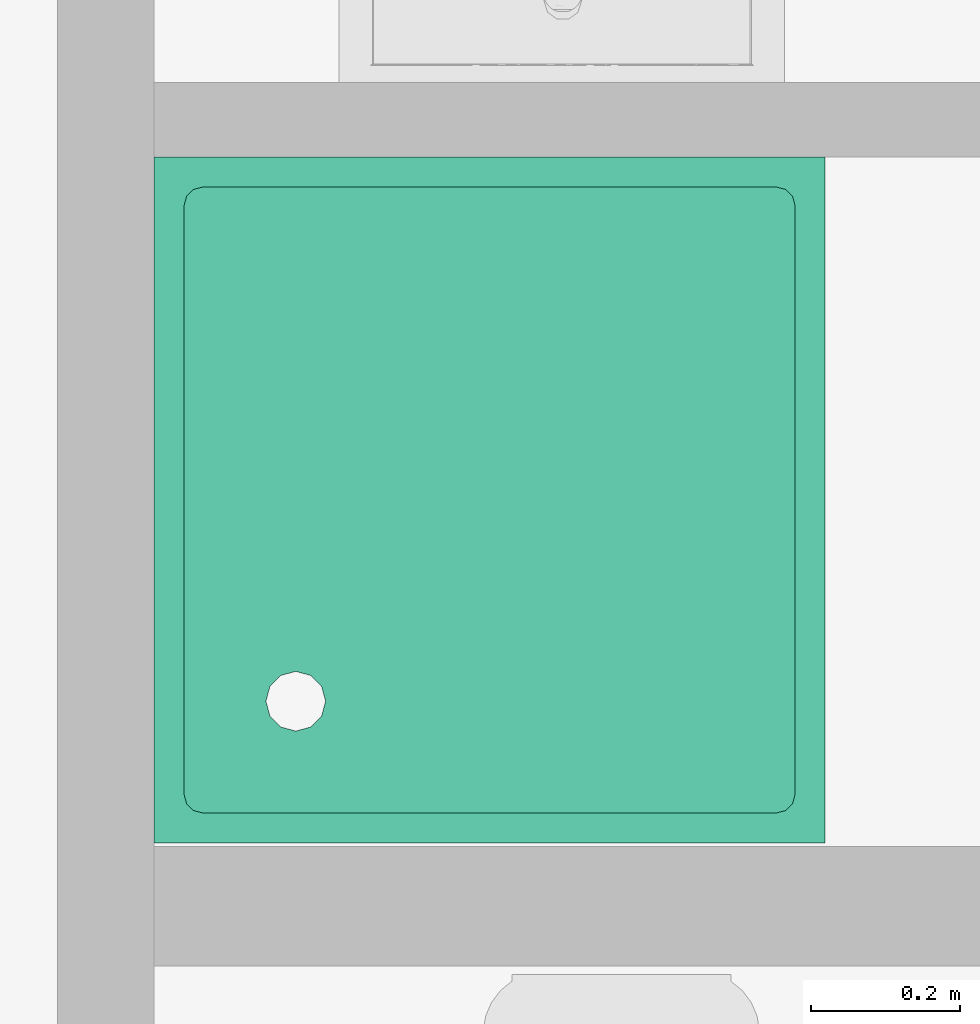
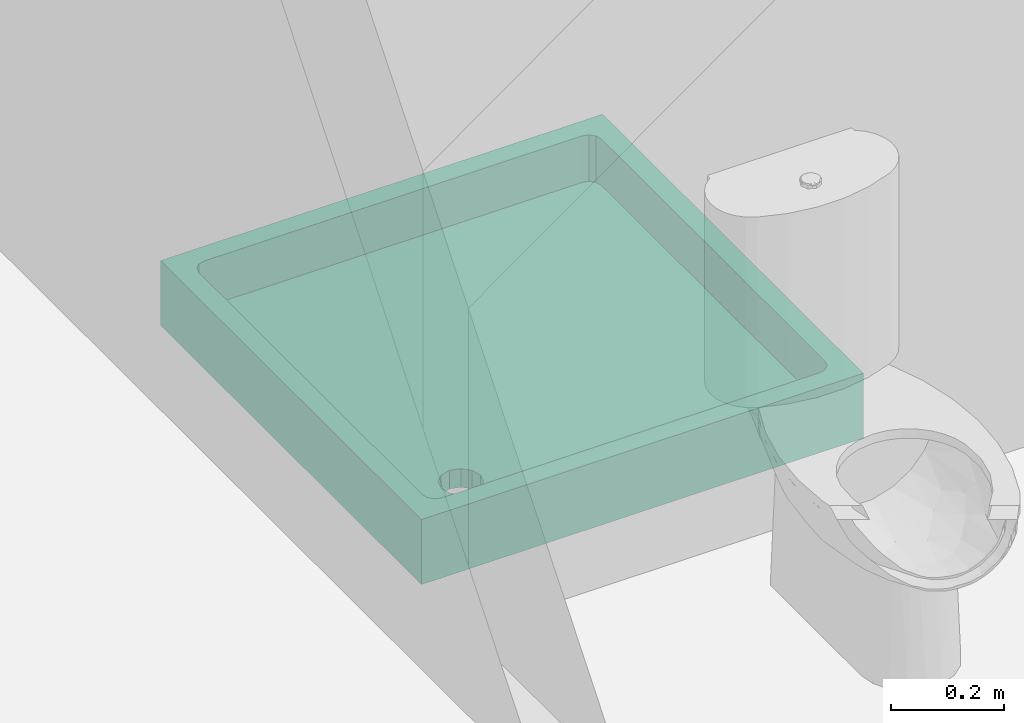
# One storey, part 96 of 97: 1 flow terminal.
"""IFC4 building model written with IfcOpenShell, lengths in metres."""

import ifcopenshell
import ifcopenshell.guid

model = None  # the IFC model being written
_history = None  # IfcOwnerHistory: only IFC2X3 demands one
_inside = {}  # id of a spatial element -> (the spatial element, [elements in it])
_under = {}  # id of a project, library or spatial element -> (it, [spatial elements below it])
_declared = {}  # id of a project -> (the project, [libraries it declares])
_typed = {}  # id of a type object -> (the type object, [elements of that type])
_made_of = {}  # id of a material, layer set ... -> (it, [elements and type objects made of it])


def new_model(schema):
    """Start an empty IFC model of exactly this schema.

    Asked for "IFC4X3", IfcOpenShell would pick the latest addendum, in which some entities
    have other attributes; the version numbers below select the first issue.
    IFC2X3 requires an IfcOwnerHistory on every rooted entity: one is made here for all.
    """
    global model, _history
    if schema == "IFC4X3":
        model = ifcopenshell.file(schema_version=(4, 3, 0, 0))
    else:
        model = ifcopenshell.file(schema=schema)
    _inside.clear()
    _under.clear()
    _declared.clear()
    _typed.clear()
    _made_of.clear()
    _history = None
    if model.schema == "IFC2X3":
        org = make("IfcOrganization", Name="unknown")
        user = make(
            "IfcPersonAndOrganization",
            ThePerson=make("IfcPerson", FamilyName="unknown"),
            TheOrganization=org,
        )
        app = make(
            "IfcApplication",
            ApplicationDeveloper=org,
            Version="unknown",
            ApplicationFullName="unknown",
            ApplicationIdentifier="unknown",
        )
        _history = make(
            "IfcOwnerHistory",
            OwningUser=user,
            OwningApplication=app,
            ChangeAction="ADDED",
            CreationDate=0,
        )
    return model


def make(cls, **values):
    """One entity of the class cls with the attributes given. An attribute that is None is left unset."""
    return model.create_entity(
        cls, **{name: value for name, value in values.items() if value is not None}
    )


def entity(cls, *values):
    """Any entity or typed value of the class cls, its attributes in the order of the schema. None: left unset."""
    e = model.create_entity(cls)
    for i, value in enumerate(values):
        if value is not None:
            e[i] = value
    return e


def rooted(cls, **values):
    """An entity with a GlobalId (a new one), such as an element, a storey or a relation."""
    return make(cls, GlobalId=ifcopenshell.guid.new(), OwnerHistory=_history, **values)


def si_unit(unit_type, name, prefix=None):
    """IfcSIUnit, for example si_unit("LENGTHUNIT", "METRE", prefix="MILLI")."""
    return make("IfcSIUnit", UnitType=unit_type, Prefix=prefix, Name=name)


def converted_unit(unit_type, name, factor, base, dimensions=None, offset=None):
    """IfcConversionBasedUnit, such as the inch: factor (a typed value) times the base unit."""
    return make(
        "IfcConversionBasedUnit"
        if offset is None
        else "IfcConversionBasedUnitWithOffset",
        ConversionOffset=offset,
        Dimensions=None
        if dimensions is None
        else entity("IfcDimensionalExponents", *dimensions),
        UnitType=unit_type,
        Name=name,
        ConversionFactor=make(
            "IfcMeasureWithUnit", ValueComponent=factor, UnitComponent=base
        ),
    )


def derived_unit(unit_type, elements):
    """IfcDerivedUnit: a product of units, each with its exponent."""
    return make(
        "IfcDerivedUnit",
        Elements=[
            make("IfcDerivedUnitElement", Unit=unit, Exponent=power)
            for unit, power in elements
        ],
        UnitType=unit_type,
    )


def assignment(units):
    """IfcUnitAssignment: the units of a project."""
    return None if units is None else make("IfcUnitAssignment", Units=units)


def point(xyz):
    """IfcCartesianPoint."""
    return None if xyz is None else make("IfcCartesianPoint", Coordinates=xyz)


def direction(xyz):
    """IfcDirection."""
    return None if xyz is None else make("IfcDirection", DirectionRatios=xyz)


def frame(location, z_axis=None, x_axis=None):
    """IfcAxis2Placement3D, a coordinate frame: its origin and axes. An axis left out is left unset."""
    return make(
        "IfcAxis2Placement3D",
        Location=point(location),
        Axis=direction(z_axis),
        RefDirection=direction(x_axis),
    )


def origin():
    """The frame at (0, 0, 0) with its axes left unset."""
    return frame((0.0, 0.0, 0.0))


def place(relative_to, where):
    """IfcLocalPlacement: puts the frame where relative to a parent placement (None: the world)."""
    return make(
        "IfcLocalPlacement", PlacementRelTo=relative_to, RelativePlacement=where
    )


def context(
    kind, dimensions, precision=None, world=None, true_north=None, identifier=None
):
    """IfcGeometricRepresentationContext, for example the 3D "Model" context."""
    return make(
        "IfcGeometricRepresentationContext",
        ContextIdentifier=identifier,
        ContextType=kind,
        CoordinateSpaceDimension=dimensions,
        Precision=precision,
        WorldCoordinateSystem=world,
        TrueNorth=true_north,
    )


def subcontext(parent, identifier, kind, view, scale=None):
    """IfcGeometricRepresentationSubContext, for example "Body" below "Model"."""
    return make(
        "IfcGeometricRepresentationSubContext",
        ContextIdentifier=identifier,
        ContextType=kind,
        ParentContext=parent,
        TargetScale=scale,
        TargetView=view,
    )


def project(units=None, contexts=None):
    """IfcProject with its units and contexts."""
    return rooted(
        "IfcProject",
        Name="project",
        RepresentationContexts=contexts,
        UnitsInContext=assignment(units),
    )


def spatial(cls, under=None, at=None, **own):
    """A site, building, storey or space (cls), placed at a placement, below another one or the project."""
    s = rooted(cls, ObjectPlacement=at, **own)
    if under is not None:
        _under.setdefault(under.id(), (under, []))[1].append(s)
    return s


def point_list(points):
    """IfcCartesianPointList2D or 3D."""
    cls = (
        "IfcCartesianPointList2D" if len(points[0]) == 2 else "IfcCartesianPointList3D"
    )
    return make(cls, CoordList=points)


def polygons(points, faces, closed=None, point_numbers=None):
    """IfcPolygonalFaceSet: a face is its outer loop, then its inner loops; points numbered from 1."""
    made = []
    for loops in faces:
        if len(loops) == 1:
            made.append(make("IfcIndexedPolygonalFace", CoordIndex=loops[0]))
        else:
            made.append(
                make(
                    "IfcIndexedPolygonalFaceWithVoids",
                    CoordIndex=loops[0],
                    InnerCoordIndices=loops[1:],
                )
            )
    return make(
        "IfcPolygonalFaceSet",
        Coordinates=point_list(points),
        Closed=closed,
        Faces=made,
        PnIndex=point_numbers,
    )


def shape(context_of_items, identifier, shape_type, items):
    """IfcShapeRepresentation: the items that make up one representation, for example the "Body"."""
    return make(
        "IfcShapeRepresentation",
        ContextOfItems=context_of_items,
        RepresentationIdentifier=identifier,
        RepresentationType=shape_type,
        Items=items,
    )


def source(mapping_origin, context_of_items, identifier, shape_type, items):
    """IfcRepresentationMap: a shape defined once, which mapped items show again and again."""
    return make(
        "IfcRepresentationMap",
        MappingOrigin=mapping_origin,
        MappedRepresentation=shape(context_of_items, identifier, shape_type, items),
    )


def transform(
    local_origin,
    x_axis=None,
    y_axis=None,
    z_axis=None,
    scale=None,
    scale2=None,
    scale3=None,
    uniform=True,
):
    """IfcCartesianTransformationOperator3D, or its non-uniform kind. x_axis, y_axis, z_axis: its Axis1, 2, 3."""
    if uniform:
        return make(
            "IfcCartesianTransformationOperator3D",
            Axis1=direction(x_axis),
            Axis2=direction(y_axis),
            LocalOrigin=point(local_origin),
            Scale=scale,
            Axis3=direction(z_axis),
        )
    return make(
        "IfcCartesianTransformationOperator3DnonUniform",
        Axis1=direction(x_axis),
        Axis2=direction(y_axis),
        LocalOrigin=point(local_origin),
        Scale=scale,
        Axis3=direction(z_axis),
        Scale2=scale2,
        Scale3=scale3,
    )


def mapped(mapping_source, mapping_target):
    """IfcMappedItem: shows the shape of a source again, moved by a transform."""
    return make(
        "IfcMappedItem", MappingSource=mapping_source, MappingTarget=mapping_target
    )


def material(Name=None, Category=None):
    """IfcMaterial."""
    return make("IfcMaterial", Name=Name, Category=Category)


def made_of(thing, what):
    """Note that an element or type object is made of a material, layer set ...; save() writes the relation."""
    if what is not None:
        _made_of.setdefault(what.id(), (what, []))[1].append(thing)
    return thing


def type_object(cls, material=None, **own):
    """A type object (cls), such as IfcWallType, which elements share."""
    return made_of(rooted(cls, **own), material)


def type_shapes(of_type, sources):
    """Give a type object the sources (RepresentationMaps) that its elements show as mapped items."""
    of_type.RepresentationMaps = sources


def element(
    cls,
    number,
    at=None,
    inside=None,
    cuts=None,
    type_object=None,
    material=None,
    context=None,
    identifier="Body",
    shape_type=None,
    held_by="IfcProductDefinitionShape",
    body=None,
    shapes=None,
    **own,
):
    """One element of the class cls, such as IfcWall. Its Tag is "e" and its number.

    at: its placement. inside: the storey or other place that contains it. cuts: it is an
    opening in that element (IfcRelVoidsElement). A single representation is given by context,
    identifier, shape_type and body (its items); several are given by shapes. held_by: the class
    of the entity that holds the representations. save() writes the other relations.
    """
    e = rooted(cls, Tag="e%d" % number, ObjectPlacement=at, **own)
    if body is not None:
        shapes = [shape(context, identifier, shape_type, body)]
    if shapes is not None:
        e.Representation = make(held_by, Representations=shapes)
    if inside is not None:
        _inside.setdefault(inside.id(), (inside, []))[1].append(e)
    if cuts is not None:
        rooted(
            "IfcRelVoidsElement", RelatingBuildingElement=cuts, RelatedOpeningElement=e
        )
    if type_object is not None:
        _typed.setdefault(type_object.id(), (type_object, []))[1].append(e)
    return made_of(e, material)


def aggregate(whole, parts):
    """IfcRelAggregates: a whole, such as a stair, and the parts it consists of."""
    return rooted("IfcRelAggregates", RelatingObject=whole, RelatedObjects=parts)


def save(model, path):
    """Write the relations noted so far, then the file.

    IfcRelAggregates (storeys below a building ...), IfcRelContainedInSpatialStructure (elements
    in a storey), IfcRelDefinesByType, IfcRelAssociatesMaterial and IfcRelDeclares: one each for
    every whole, place, type object, material and project.
    """
    for whole, parts in _under.values():
        aggregate(whole, parts)
    for where, things in _inside.values():
        rooted(
            "IfcRelContainedInSpatialStructure",
            RelatedElements=things,
            RelatingStructure=where,
        )
    for kind, things in _typed.values():
        rooted("IfcRelDefinesByType", RelatedObjects=things, RelatingType=kind)
    for what, things in _made_of.values():
        rooted("IfcRelAssociatesMaterial", RelatedObjects=things, RelatingMaterial=what)
    for by, libraries in _declared.values():
        rooted("IfcRelDeclares", RelatingContext=by, RelatedDefinitions=libraries)
    model.write(path)


model = new_model("IFC4")

# Units and contexts
model_context = context("Model", 3, precision=1e-05, world=origin(), true_north=direction((6.12303176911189e-17, 1.0)))
body_context = subcontext(model_context, "Body", "Model", "MODEL_VIEW")
ifc_project = project(units=[si_unit("LENGTHUNIT", "METRE"), si_unit("AREAUNIT", "SQUARE_METRE"), si_unit("VOLUMEUNIT", "CUBIC_METRE"), converted_unit("PLANEANGLEUNIT", "DEGREE", entity("IfcRatioMeasure", 0.0174532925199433), si_unit("PLANEANGLEUNIT", "RADIAN"), dimensions=[0, 0, 0, 0, 0, 0, 0]), si_unit("MASSUNIT", "GRAM", prefix="KILO"), derived_unit("MASSDENSITYUNIT", [(si_unit("MASSUNIT", "GRAM", prefix="KILO"), 1), (si_unit("LENGTHUNIT", "METRE"), -3)]), derived_unit("MOMENTOFINERTIAUNIT", [(si_unit("LENGTHUNIT", "METRE"), 4)]), si_unit("TIMEUNIT", "SECOND"), si_unit("FREQUENCYUNIT", "HERTZ"), si_unit("THERMODYNAMICTEMPERATUREUNIT", "DEGREE_CELSIUS"), derived_unit("THERMALTRANSMITTANCEUNIT", [(si_unit("MASSUNIT", "GRAM", prefix="KILO"), 1), (si_unit("THERMODYNAMICTEMPERATUREUNIT", "KELVIN"), -1), (si_unit("TIMEUNIT", "SECOND"), -3)]), derived_unit("VOLUMETRICFLOWRATEUNIT", [(si_unit("LENGTHUNIT", "METRE"), 3), (si_unit("TIMEUNIT", "SECOND"), -1)]), si_unit("ELECTRICCURRENTUNIT", "AMPERE"), si_unit("ELECTRICVOLTAGEUNIT", "VOLT"), si_unit("POWERUNIT", "WATT"), si_unit("FORCEUNIT", "NEWTON", prefix="KILO"), si_unit("ILLUMINANCEUNIT", "LUX"), si_unit("LUMINOUSFLUXUNIT", "LUMEN"), si_unit("LUMINOUSINTENSITYUNIT", "CANDELA"), derived_unit("USERDEFINED", [(si_unit("MASSUNIT", "GRAM", prefix="KILO"), -1), (si_unit("LENGTHUNIT", "METRE"), -2), (si_unit("TIMEUNIT", "SECOND"), 3), (si_unit("LUMINOUSFLUXUNIT", "LUMEN"), 1)]), derived_unit("LINEARVELOCITYUNIT", [(si_unit("LENGTHUNIT", "METRE"), 1), (si_unit("TIMEUNIT", "SECOND"), -1)]), si_unit("PRESSUREUNIT", "PASCAL"), derived_unit("USERDEFINED", [(si_unit("LENGTHUNIT", "METRE"), -2), (si_unit("MASSUNIT", "GRAM", prefix="KILO"), 1), (si_unit("TIMEUNIT", "SECOND"), -2)]), derived_unit("LINEARFORCEUNIT", [(si_unit("MASSUNIT", "GRAM", prefix="KILO"), 1), (si_unit("LENGTHUNIT", "METRE"), 1), (si_unit("TIMEUNIT", "SECOND"), -2), (si_unit("LENGTHUNIT", "METRE"), -1)]), derived_unit("PLANARFORCEUNIT", [(si_unit("MASSUNIT", "GRAM", prefix="KILO"), 1), (si_unit("LENGTHUNIT", "METRE"), 1), (si_unit("TIMEUNIT", "SECOND"), -2), (si_unit("LENGTHUNIT", "METRE"), -2)])], contexts=[model_context])

# Site, building, storey
site_placement = place(None, origin())
site = spatial("IfcSite", under=ifc_project, at=site_placement, Name="Default", CompositionType="ELEMENT")
building_placement = place(site_placement, origin())
building = spatial("IfcBuilding", under=site, at=building_placement, Name="HOTEL CONSULAIRE BOULOGNE SUR MER", CompositionType="ELEMENT")
storey_placement = place(building_placement, frame((0.0, 0.0, 3.62152697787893)))
storey = spatial("IfcBuildingStorey", under=building, at=storey_placement, Name="Niveau 1", CompositionType="ELEMENT", Elevation=3.62152697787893)

# Flow terminal
ifc_material = material(Name="Céramique - Blanche", Category="Céramique")
distribution_element_type = type_object("IfcDistributionElementType", Name="Receveur d'angle - Vidange en angle:920 x 900mm", material=ifc_material)
shared_shape = source(origin(), body_context, "Body", "Tessellation", [
    polygons([(0.46, 0.450000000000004, 0.140000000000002), (-0.46, 0.450000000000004, 0.140000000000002), (-0.46, -0.449999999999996, 0.140000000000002), (0.46, -0.449999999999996, 0.140000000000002), (0.420000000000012, -0.384599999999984, 0.140000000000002), (0.41659704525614, -0.397299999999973, 0.140000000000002), (0.407300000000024, -0.406597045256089, 0.140000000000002), (0.394600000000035, -0.409999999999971, 0.140000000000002), (-0.39459999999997, -0.409999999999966, 0.140000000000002), (-0.407299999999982, -0.406597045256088, 0.140000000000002), (-0.416597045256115, -0.397299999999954, 0.140000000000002), (-0.419999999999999, -0.384599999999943, 0.140000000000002), (-0.420000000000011, 0.384600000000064, 0.140000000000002), (-0.416597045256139, 0.397300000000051, 0.140000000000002), (-0.407300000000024, 0.406597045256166, 0.140000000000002), (-0.394600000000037, 0.410000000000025, 0.140000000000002), (0.394600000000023, 0.410000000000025, 0.140000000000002), (0.407300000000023, 0.40659704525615, 0.140000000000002), (0.416597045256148, 0.397300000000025, 0.140000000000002), (0.420000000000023, 0.384600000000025, 0.140000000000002), (0.46, 0.450000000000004, 0.0), (0.46, -0.449999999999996, 0.0), (-0.46, -0.449999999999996, 0.0), (-0.46, 0.450000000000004, 0.0), (0.230000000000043, -0.259999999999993, 0.0), (0.235358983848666, -0.279999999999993, 0.0), (0.250000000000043, -0.29464101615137, 0.0), (0.270000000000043, -0.299999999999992, 0.0), (0.290000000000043, -0.29464101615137, 0.0), (0.304641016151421, -0.279999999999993, 0.0), (0.310000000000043, -0.259999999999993, 0.0), (0.304641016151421, -0.239999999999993, 0.0), (0.290000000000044, -0.225358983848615, 0.0), (0.270000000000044, -0.219999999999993, 0.0), (0.250000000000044, -0.225358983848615, 0.0), (0.235358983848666, -0.239999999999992, 0.0), (0.394600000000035, -0.409999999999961, 0.0400000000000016), (0.407300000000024, -0.406597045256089, 0.0400000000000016), (0.41659704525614, -0.397299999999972, 0.0400000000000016), (0.420000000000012, -0.384599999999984, 0.0400000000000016), (0.420000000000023, 0.384600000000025, 0.0400000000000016), (0.416597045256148, 0.397300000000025, 0.0400000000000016), (0.407300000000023, 0.40659704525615, 0.0400000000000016), (0.394600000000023, 0.410000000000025, 0.0400000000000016), (-0.394600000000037, 0.410000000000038, 0.0400000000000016), (-0.407300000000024, 0.406597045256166, 0.0400000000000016), (-0.416597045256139, 0.397300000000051, 0.0400000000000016), (-0.420000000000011, 0.384600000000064, 0.0400000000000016), (-0.419999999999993, -0.384599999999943, 0.0400000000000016), (-0.416597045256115, -0.397299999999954, 0.0400000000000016), (-0.407299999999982, -0.406597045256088, 0.0400000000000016), (-0.39459999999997, -0.409999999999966, 0.0400000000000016), (0.310000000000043, -0.259999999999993, 0.0400000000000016), (0.304641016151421, -0.279999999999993, 0.0400000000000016), (0.290000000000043, -0.29464101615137, 0.0400000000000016), (0.270000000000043, -0.299999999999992, 0.0400000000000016), (0.250000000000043, -0.29464101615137, 0.0400000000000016), (0.235358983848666, -0.279999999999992, 0.0400000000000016), (0.230000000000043, -0.259999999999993, 0.0400000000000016), (0.235358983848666, -0.239999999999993, 0.0400000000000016), (0.250000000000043, -0.225358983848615, 0.0400000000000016), (0.270000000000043, -0.219999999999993, 0.0400000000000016), (0.290000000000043, -0.225358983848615, 0.0400000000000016), (0.304641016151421, -0.239999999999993, 0.0400000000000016), (0.402049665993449, -0.408003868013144, 0.0400000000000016), (0.400950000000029, -0.408298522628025, 0.140000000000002), (0.411948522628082, -0.401948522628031, 0.140000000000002), (0.411948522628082, -0.401948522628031, 0.0400000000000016), (0.418003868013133, -0.392049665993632, 0.140000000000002), (0.418298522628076, -0.390949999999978, 0.0400000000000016), (0.418003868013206, 0.39204966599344, 0.0400000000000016), (0.418298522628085, 0.390950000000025, 0.140000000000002), (0.411948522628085, 0.401948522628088, 0.140000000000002), (0.411948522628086, 0.401948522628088, 0.0400000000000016), (0.402049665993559, 0.408003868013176, 0.140000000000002), (0.400950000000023, 0.408298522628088, 0.0400000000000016), (-0.402049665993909, 0.408003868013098, 0.0400000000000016), (-0.40095000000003, 0.408298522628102, 0.140000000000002), (-0.411948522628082, 0.401948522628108, 0.140000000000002), (-0.411948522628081, 0.401948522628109, 0.0400000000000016), (-0.418003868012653, 0.392049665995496, 0.140000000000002), (-0.418298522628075, 0.390950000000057, 0.0400000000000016), (-0.41800386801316, -0.392049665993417, 0.0400000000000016), (-0.418298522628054, -0.390949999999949, 0.140000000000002), (-0.411948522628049, -0.401948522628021, 0.140000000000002), (-0.411948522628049, -0.401948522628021, 0.0400000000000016), (-0.402049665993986, -0.408003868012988, 0.140000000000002), (-0.400949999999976, -0.408298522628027, 0.0400000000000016), (0.232465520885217, -0.269201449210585, 0.0400000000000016), (0.232679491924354, -0.269999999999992, 1.37002686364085e-25), (0.242679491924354, -0.287320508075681, 8.22016118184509e-25), (0.242679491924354, -0.287320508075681, 0.0400000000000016), (0.260000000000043, -0.297320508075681, 3.28806447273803e-24), (0.260000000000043, -0.297320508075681, 0.0400000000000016), (0.297320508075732, -0.287320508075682, 0.0400000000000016), (0.297320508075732, -0.287320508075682, 1.37002686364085e-25), (0.307534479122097, -0.269201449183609, 0.0400000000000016), (0.307320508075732, -0.269999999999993, 2.28337810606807e-26), (0.280000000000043, -0.297320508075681, 2.64871860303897e-24), (0.280000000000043, -0.297320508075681, 0.0400000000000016), (0.307534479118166, -0.250798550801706, 0.0400000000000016), (0.307320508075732, -0.249999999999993, 4.56675621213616e-26), (0.297320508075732, -0.232679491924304, 4.56675621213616e-26), (0.297320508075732, -0.232679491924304, 0.0400000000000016), (0.280000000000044, -0.222679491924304, -7.30680993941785e-25), (0.280000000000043, -0.222679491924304, 0.0400000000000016), (0.242679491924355, -0.232679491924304, 0.0400000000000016), (0.242679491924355, -0.232679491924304, 1.82670248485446e-25), (0.232465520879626, -0.250798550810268, 0.0400000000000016), (0.232679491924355, -0.249999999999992, 0.0), (0.260000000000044, -0.222679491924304, -5.48010745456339e-25), (0.260000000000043, -0.222679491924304, 0.0400000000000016)], [[[1, 2, 3, 4], [5, 69, 6, 67, 7, 66, 8, 9, 87, 10, 85, 11, 84, 12, 13, 81, 14, 79, 15, 78, 16, 17, 75, 18, 73, 19, 72, 20]], [[41, 71, 42, 74, 43, 76, 44, 45, 77, 46, 80, 47, 82, 48, 49, 83, 50, 86, 51, 88, 52, 37, 65, 38, 68, 39, 70, 40], [61, 112, 62, 106, 63, 104, 64, 101, 53, 97, 54, 95, 55, 100, 56, 94, 57, 92, 58, 89, 59, 109, 60, 107]], [[24, 21, 22, 23], [36, 110, 25, 90, 26, 91, 27, 93, 28, 99, 29, 96, 30, 98, 31, 102, 32, 103, 33, 105, 34, 111, 35, 108]], [[2, 1, 21, 24]], [[52, 9, 8, 37]], [[3, 2, 24, 23]], [[40, 5, 20, 41]], [[4, 3, 23, 22]], [[44, 17, 16, 45]], [[1, 4, 22, 21]], [[48, 13, 12, 49]], [[38, 65, 37, 8, 66, 7]], [[99, 28, 56, 100, 55, 29]], [[39, 68, 38, 7, 67, 6]], [[95, 54, 30, 96, 29, 55]], [[5, 40, 70, 39, 6, 69]], [[97, 53, 31, 98, 30, 54]], [[42, 71, 41, 20, 72, 19]], [[32, 102, 31, 53, 101, 64]], [[43, 74, 42, 19, 73, 18]], [[63, 33, 103, 32, 64, 104]], [[17, 44, 76, 43, 18, 75]], [[105, 33, 63, 106, 62, 34]], [[46, 77, 45, 16, 78, 15]], [[111, 34, 62, 112, 61, 35]], [[47, 80, 46, 15, 79, 14]], [[107, 60, 36, 108, 35, 61]], [[13, 48, 82, 47, 14, 81]], [[109, 59, 25, 110, 36, 60]], [[50, 83, 49, 12, 84, 11]], [[26, 90, 25, 59, 89, 58]], [[51, 86, 50, 11, 85, 10]], [[57, 27, 91, 26, 58, 92]], [[9, 52, 88, 51, 10, 87]], [[94, 56, 28, 93, 27, 57]]], closed=True),
])
type_shapes(distribution_element_type, [shared_shape])
flow_terminal_placement = place(storey_placement, frame((-2.08052868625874, -17.7777856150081, 0.0), z_axis=(0.0, 0.0, 1.0), x_axis=(0.0, -1.0, 0.0)))
element("IfcFlowTerminal", 1, at=flow_terminal_placement, inside=storey, type_object=distribution_element_type, material=ifc_material, Name="Receveur d'angle - Vidange en angle:920 x 900mm", ObjectType="Receveur d'angle - Vidange en angle:920 x 900mm", context=body_context, shape_type="MappedRepresentation", body=[
    mapped(shared_shape, transform((0.0, 0.0, 0.0), scale=1.0)),
])

save(model, "model.ifc")
